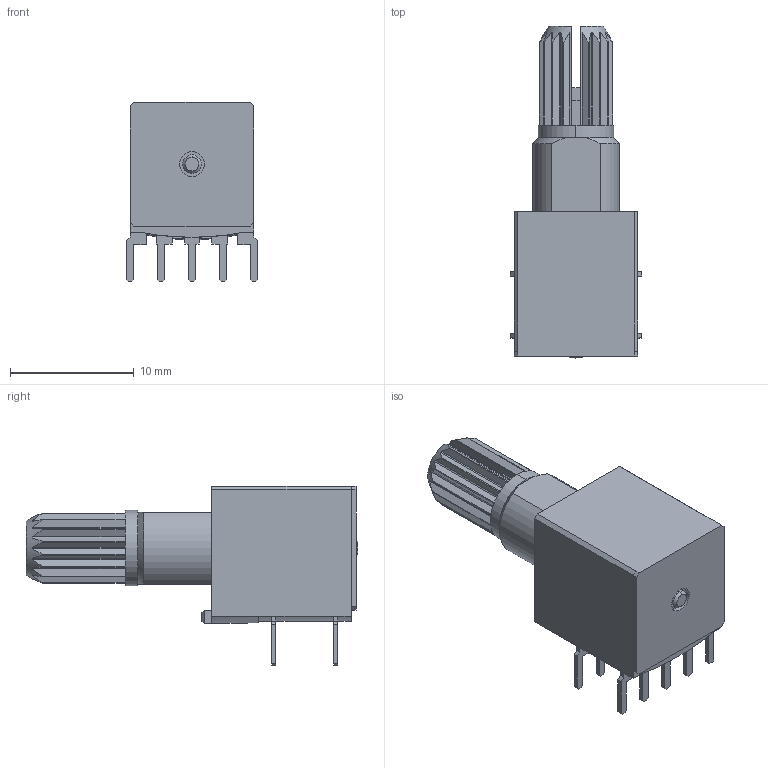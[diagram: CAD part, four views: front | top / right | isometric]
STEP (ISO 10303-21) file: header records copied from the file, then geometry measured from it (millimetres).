
FILE_DESCRIPTION (( 'STEP AP214' ), '1' );
FILE_NAME ('SRBM140700.STEP', '2010-06-10T10:06:15', ( ' ' ), ( '' ), 'SwSTEP 2.0', 'SolidWorks 2007', '' );
FILE_SCHEMA (( 'AUTOMOTIVE_DESIGN' ));
Length unit declared in the file: millimetre
Products named in the file (1): SRBM140700
Bounding box: 10.6 x 26.8 x 14.5 mm (x, y, z)
Volume: 1662 mm3; surface area: 1163.7 mm2
Topology: 1 solids, 1 shells, 252 faces, 707 edges, 466 vertices
Faces by surface type: plane 213, cylinder 29, cone 10
Entity records: 10877 total; most frequent: CARTESIAN_POINT 1622, ORIENTED_EDGE 1414, DIRECTION 1242, EDGE_CURVE 707, VECTOR 546, LINE 546, VERTEX_POINT 466, AXIS2_PLACEMENT_3D 348
